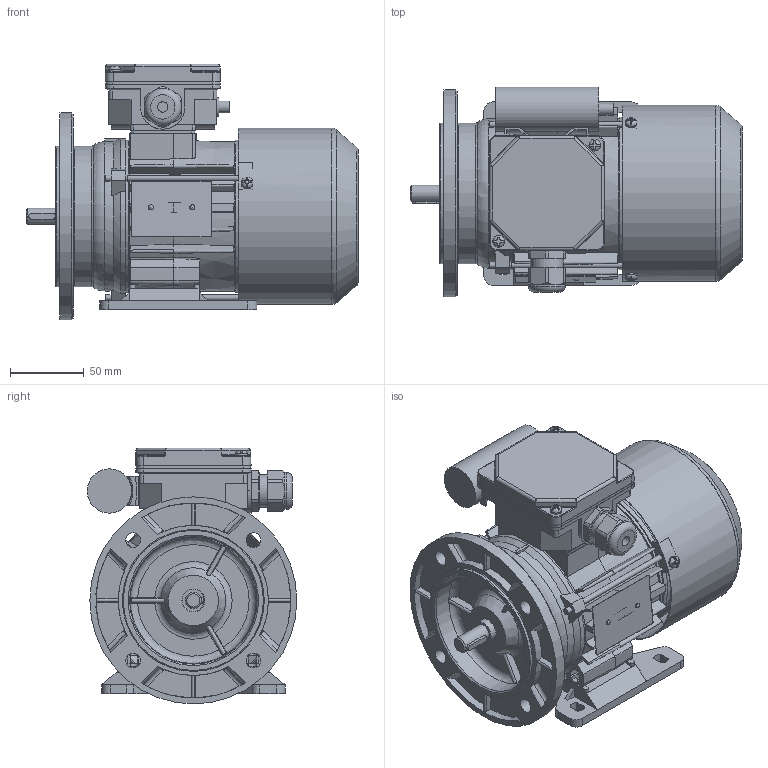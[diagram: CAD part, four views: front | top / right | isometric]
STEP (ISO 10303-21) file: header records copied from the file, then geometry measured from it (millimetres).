
FILE_DESCRIPTION(/* description */ ('Unknown'),/* implementation_level */ '2;1');
FILE_NAME(/* name */ '3SSIEL63-4A',/* time_stamp */ '2024-06-17T09:10:03+02:00',/* author */ ('Unknown'),/* organization */ ('Unknown'),/* preprocessor_version */ 'ST-DEVELOPER v16.7',/* originating_system */ 'Solid Edge',/* authorisation */ 'Unknown');
FILE_SCHEMA (('AUTOMOTIVE_DESIGN {1 0 10303 214 3 1 1}'));
Length unit declared in the file: millimetre
Products named in the file (1): Czêœæ5
Bounding box: 224.49 x 141.82 x 173 mm (x, y, z)
Volume: 655067.5 mm3; surface area: 371821.1 mm2
Topology: 3 solids, 3 shells, 1976 faces, 5596 edges, 3648 vertices
Faces by surface type: plane 1047, cylinder 587, torus 116, cone 112, bspline 93, sphere 21
Full cylindrical faces by diameter (mm): 2.4 x2, 3 x1, 3.7 x7, 4 x8, 4.5 x5, 4.6 x1, 4.8 x2, 5 x2, 5.8 x4, 6.5 x1, 7 x4, 7.999 x1, 8 x6, 10 x4, 10.999 x1, 12.899 x1, 13.099 x1, 14.998 x2, 15.4 x2, 18.998 x2, 19.498 x1, 19.998 x1, 20.098 x1, 21.518 x4, 22.3 x1, 25 x1, 28 x2, 28.48 x4, 29.997 x1, 31 x2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
Entity records: 79626 total; most frequent: CARTESIAN_POINT 16318, ORIENTED_EDGE 10526, DIRECTION 9904, EDGE_CURVE 5263, AXIS2_PLACEMENT_3D 3595, VERTEX_POINT 3524, LINE 2714, VECTOR 2714
